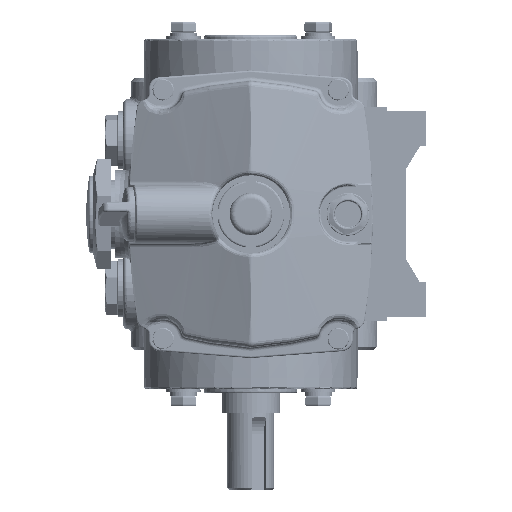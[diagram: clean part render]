
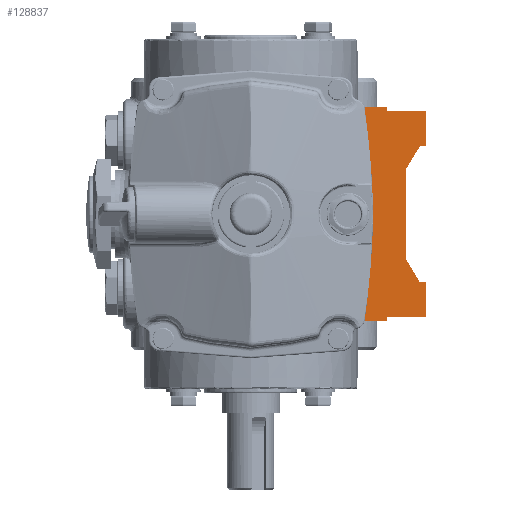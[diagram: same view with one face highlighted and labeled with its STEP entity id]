
A CAD part, left-side view. The second image highlights one B-rep face of the part: STEP entity #128837.
In plain terms, the highlighted planar face has unit normal (-1, 0, 0).
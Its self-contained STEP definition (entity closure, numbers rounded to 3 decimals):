
#41969 = VECTOR ( 'NONE', #140600, 1000. ) ;
#41977 = VECTOR ( 'NONE', #140618, 1000. ) ;
#41983 = VECTOR ( 'NONE', #140627, 1000. ) ;
#41986 = AXIS2_PLACEMENT_3D ( 'NONE', #140644, #140647, #140649 ) ;
#41997 = VECTOR ( 'NONE', #140658, 1000. ) ;
#42003 = VECTOR ( 'NONE', #140666, 1000. ) ;
#42013 = VECTOR ( 'NONE', #140694, 1000. ) ;
#42020 = VECTOR ( 'NONE', #140701, 1000. ) ;
#42025 = VECTOR ( 'NONE', #140708, 1000. ) ;
#42040 = VECTOR ( 'NONE', #140732, 1000. ) ;
#42045 = VECTOR ( 'NONE', #140741, 1000. ) ;
#42050 = VECTOR ( 'NONE', #140749, 1000. ) ;
#42062 = VECTOR ( 'NONE', #140772, 1000. ) ;
#42067 = VECTOR ( 'NONE', #140780, 1000. ) ;
#42072 = VECTOR ( 'NONE', #140789, 1000. ) ;
#42084 = VECTOR ( 'NONE', #140817, 1000. ) ;
#42089 = VECTOR ( 'NONE', #140824, 1000. ) ;
#42095 = VECTOR ( 'NONE', #140831, 1000. ) ;
#81802 = EDGE_CURVE ( 'NONE', #123988, #123991, #140596, .T. ) ;
#81804 = EDGE_CURVE ( 'NONE', #123981, #123988, #140612, .T. ) ;
#81805 = EDGE_CURVE ( 'NONE', #124000, #123991, #140621, .T. ) ;
#81808 = EDGE_CURVE ( 'NONE', #124009, #124000, #169655, .T. ) ;
#81809 = EDGE_CURVE ( 'NONE', #124014, #124009, #140654, .T. ) ;
#81810 = EDGE_CURVE ( 'NONE', #124014, #124018, #140660, .T. ) ;
#81813 = EDGE_CURVE ( 'NONE', #124021, #124018, #140690, .T. ) ;
#81814 = EDGE_CURVE ( 'NONE', #124024, #124021, #140697, .T. ) ;
#81815 = EDGE_CURVE ( 'NONE', #124032, #124024, #140704, .T. ) ;
#81818 = EDGE_CURVE ( 'NONE', #124032, #124039, #140726, .T. ) ;
#81819 = EDGE_CURVE ( 'NONE', #124042, #124039, #140735, .T. ) ;
#81820 = EDGE_CURVE ( 'NONE', #124048, #124042, #140744, .T. ) ;
#81823 = EDGE_CURVE ( 'NONE', #124051, #124048, #140768, .T. ) ;
#81824 = EDGE_CURVE ( 'NONE', #124054, #124051, #140774, .T. ) ;
#81825 = EDGE_CURVE ( 'NONE', #124063, #124054, #140783, .T. ) ;
#81828 = EDGE_CURVE ( 'NONE', #124063, #124071, #140812, .T. ) ;
#81829 = EDGE_CURVE ( 'NONE', #124071, #124076, #140819, .T. ) ;
#81830 = EDGE_CURVE ( 'NONE', #123981, #124076, #140826, .T. ) ;
#93718 = PLANE ( 'NONE',  #127081 ) ;
#93721 = CARTESIAN_POINT ( 'NONE',  ( -47., -90., 55. ) ) ;
#93724 = DIRECTION ( 'NONE',  ( -1., 0., 0. ) ) ;
#93727 = DIRECTION ( 'NONE',  ( 0., 0., 1. ) ) ;
#98867 = ORIENTED_EDGE ( 'NONE', *, *, #81804, .T. ) ;
#98873 = ORIENTED_EDGE ( 'NONE', *, *, #81805, .F. ) ;
#98877 = ORIENTED_EDGE ( 'NONE', *, *, #81802, .T. ) ;
#98881 = ORIENTED_EDGE ( 'NONE', *, *, #81808, .F. ) ;
#98885 = ORIENTED_EDGE ( 'NONE', *, *, #81809, .F. ) ;
#98889 = ORIENTED_EDGE ( 'NONE', *, *, #81810, .T. ) ;
#98895 = ORIENTED_EDGE ( 'NONE', *, *, #81813, .F. ) ;
#98899 = ORIENTED_EDGE ( 'NONE', *, *, #81814, .F. ) ;
#98903 = ORIENTED_EDGE ( 'NONE', *, *, #81815, .F. ) ;
#98909 = ORIENTED_EDGE ( 'NONE', *, *, #81818, .T. ) ;
#98913 = ORIENTED_EDGE ( 'NONE', *, *, #81819, .F. ) ;
#98917 = ORIENTED_EDGE ( 'NONE', *, *, #81820, .F. ) ;
#98923 = ORIENTED_EDGE ( 'NONE', *, *, #81823, .F. ) ;
#98927 = ORIENTED_EDGE ( 'NONE', *, *, #81824, .F. ) ;
#98931 = ORIENTED_EDGE ( 'NONE', *, *, #81825, .F. ) ;
#98937 = ORIENTED_EDGE ( 'NONE', *, *, #81828, .T. ) ;
#98941 = ORIENTED_EDGE ( 'NONE', *, *, #81829, .T. ) ;
#98945 = ORIENTED_EDGE ( 'NONE', *, *, #81830, .F. ) ;
#123981 = VERTEX_POINT ( 'NONE', #296210 ) ;
#123988 = VERTEX_POINT ( 'NONE', #296214 ) ;
#123991 = VERTEX_POINT ( 'NONE', #296220 ) ;
#124000 = VERTEX_POINT ( 'NONE', #296223 ) ;
#124009 = VERTEX_POINT ( 'NONE', #296228 ) ;
#124014 = VERTEX_POINT ( 'NONE', #296232 ) ;
#124018 = VERTEX_POINT ( 'NONE', #296236 ) ;
#124021 = VERTEX_POINT ( 'NONE', #296239 ) ;
#124024 = VERTEX_POINT ( 'NONE', #296244 ) ;
#124032 = VERTEX_POINT ( 'NONE', #296248 ) ;
#124039 = VERTEX_POINT ( 'NONE', #296252 ) ;
#124042 = VERTEX_POINT ( 'NONE', #296256 ) ;
#124048 = VERTEX_POINT ( 'NONE', #296262 ) ;
#124051 = VERTEX_POINT ( 'NONE', #296267 ) ;
#124054 = VERTEX_POINT ( 'NONE', #296273 ) ;
#124063 = VERTEX_POINT ( 'NONE', #296278 ) ;
#124071 = VERTEX_POINT ( 'NONE', #296283 ) ;
#124076 = VERTEX_POINT ( 'NONE', #296288 ) ;
#127017 = FACE_OUTER_BOUND ( 'NONE', #179886, .T. ) ;
#127081 = AXIS2_PLACEMENT_3D ( 'NONE', #93721, #93724, #93727 ) ;
#128837 = ADVANCED_FACE ( 'NONE', ( #127017 ), #93718, .T. ) ;
#140596 = LINE ( 'NONE', #140598, #41969 ) ;
#140598 = CARTESIAN_POINT ( 'NONE',  ( -47., -52., 55. ) ) ;
#140600 = DIRECTION ( 'NONE',  ( 0., 0., -1. ) ) ;
#140612 = LINE ( 'NONE', #140615, #41977 ) ;
#140615 = CARTESIAN_POINT ( 'NONE',  ( -47., -90., 55. ) ) ;
#140618 = DIRECTION ( 'NONE',  ( 0., 1., 0. ) ) ;
#140621 = LINE ( 'NONE', #140624, #41983 ) ;
#140624 = CARTESIAN_POINT ( 'NONE',  ( -47., -33., 65. ) ) ;
#140627 = DIRECTION ( 'NONE',  ( 0., 0.873, 0.489 ) ) ;
#140644 = CARTESIAN_POINT ( 'NONE',  ( -47., 293.318, 0. ) ) ;
#140647 = DIRECTION ( 'NONE',  ( -1., 0., 0. ) ) ;
#140649 = DIRECTION ( 'NONE',  ( 0., 0., 1. ) ) ;
#140654 = LINE ( 'NONE', #140656, #41997 ) ;
#140656 = CARTESIAN_POINT ( 'NONE',  ( -47., -33., -65. ) ) ;
#140658 = DIRECTION ( 'NONE',  ( 0., -0.873, 0.489 ) ) ;
#140660 = LINE ( 'NONE', #140663, #42003 ) ;
#140663 = CARTESIAN_POINT ( 'NONE',  ( -47., -52., 55. ) ) ;
#140666 = DIRECTION ( 'NONE',  ( 0., 0., -1. ) ) ;
#140690 = LINE ( 'NONE', #140692, #42013 ) ;
#140692 = CARTESIAN_POINT ( 'NONE',  ( -47., -90., -55. ) ) ;
#140694 = DIRECTION ( 'NONE',  ( 0., 1., 0. ) ) ;
#140697 = LINE ( 'NONE', #140699, #42020 ) ;
#140699 = CARTESIAN_POINT ( 'NONE',  ( -47., -70., 55. ) ) ;
#140701 = DIRECTION ( 'NONE',  ( 0., 0., -1. ) ) ;
#140704 = LINE ( 'NONE', #140706, #42025 ) ;
#140706 = CARTESIAN_POINT ( 'NONE',  ( -47., -90., -53. ) ) ;
#140708 = DIRECTION ( 'NONE',  ( 0., 1., 0. ) ) ;
#140726 = LINE ( 'NONE', #140729, #42040 ) ;
#140729 = CARTESIAN_POINT ( 'NONE',  ( -47., -90., 55. ) ) ;
#140732 = DIRECTION ( 'NONE',  ( 0., 0., 1. ) ) ;
#140735 = LINE ( 'NONE', #140738, #42045 ) ;
#140738 = CARTESIAN_POINT ( 'NONE',  ( -47., -87., -35. ) ) ;
#140741 = DIRECTION ( 'NONE',  ( 0., -1., 0. ) ) ;
#140744 = LINE ( 'NONE', #140747, #42050 ) ;
#140747 = CARTESIAN_POINT ( 'NONE',  ( -47., -80., -23.5 ) ) ;
#140749 = DIRECTION ( 'NONE',  ( 0., -0.52, -0.854 ) ) ;
#140768 = LINE ( 'NONE', #140770, #42062 ) ;
#140770 = CARTESIAN_POINT ( 'NONE',  ( -47., -80., 23.5 ) ) ;
#140772 = DIRECTION ( 'NONE',  ( 0., 0., -1. ) ) ;
#140774 = LINE ( 'NONE', #140777, #42067 ) ;
#140777 = CARTESIAN_POINT ( 'NONE',  ( -47., -87., 35. ) ) ;
#140780 = DIRECTION ( 'NONE',  ( 0., 0.52, -0.854 ) ) ;
#140783 = LINE ( 'NONE', #140786, #42072 ) ;
#140786 = CARTESIAN_POINT ( 'NONE',  ( -47., -100., 35. ) ) ;
#140789 = DIRECTION ( 'NONE',  ( 0., 1., 0. ) ) ;
#140812 = LINE ( 'NONE', #140814, #42084 ) ;
#140814 = CARTESIAN_POINT ( 'NONE',  ( -47., -90., 55. ) ) ;
#140817 = DIRECTION ( 'NONE',  ( 0., 0., 1. ) ) ;
#140819 = LINE ( 'NONE', #140821, #42089 ) ;
#140821 = CARTESIAN_POINT ( 'NONE',  ( -47., -90., 53. ) ) ;
#140824 = DIRECTION ( 'NONE',  ( 0., 1., 0. ) ) ;
#140826 = LINE ( 'NONE', #140828, #42095 ) ;
#140828 = CARTESIAN_POINT ( 'NONE',  ( -47., -70., 55. ) ) ;
#140831 = DIRECTION ( 'NONE',  ( 0., 0., -1. ) ) ;
#169655 = CIRCLE ( 'NONE', #41986, 355. ) ;
#179886 = EDGE_LOOP ( 'NONE', ( #98867, #98877, #98873, #98881, #98885, #98889, #98895, #98899, #98903, #98909, #98913, #98917, #98923, #98927, #98931, #98937, #98941, #98945 ) ) ;
#296210 = CARTESIAN_POINT ( 'NONE',  ( -47., -70., 55. ) ) ;
#296214 = CARTESIAN_POINT ( 'NONE',  ( -47., -52., 55. ) ) ;
#296220 = CARTESIAN_POINT ( 'NONE',  ( -47., -52., 54.36 ) ) ;
#296223 = CARTESIAN_POINT ( 'NONE',  ( -47., -58., 51. ) ) ;
#296228 = CARTESIAN_POINT ( 'NONE',  ( -47., -58., -51. ) ) ;
#296232 = CARTESIAN_POINT ( 'NONE',  ( -47., -52., -54.36 ) ) ;
#296236 = CARTESIAN_POINT ( 'NONE',  ( -47., -52., -55. ) ) ;
#296239 = CARTESIAN_POINT ( 'NONE',  ( -47., -70., -55. ) ) ;
#296244 = CARTESIAN_POINT ( 'NONE',  ( -47., -70., -53. ) ) ;
#296248 = CARTESIAN_POINT ( 'NONE',  ( -47., -90., -53. ) ) ;
#296252 = CARTESIAN_POINT ( 'NONE',  ( -47., -90., -35. ) ) ;
#296256 = CARTESIAN_POINT ( 'NONE',  ( -47., -87., -35. ) ) ;
#296262 = CARTESIAN_POINT ( 'NONE',  ( -47., -80., -23.5 ) ) ;
#296267 = CARTESIAN_POINT ( 'NONE',  ( -47., -80., 23.5 ) ) ;
#296273 = CARTESIAN_POINT ( 'NONE',  ( -47., -87., 35. ) ) ;
#296278 = CARTESIAN_POINT ( 'NONE',  ( -47., -90., 35. ) ) ;
#296283 = CARTESIAN_POINT ( 'NONE',  ( -47., -90., 53. ) ) ;
#296288 = CARTESIAN_POINT ( 'NONE',  ( -47., -70., 53. ) ) ;
